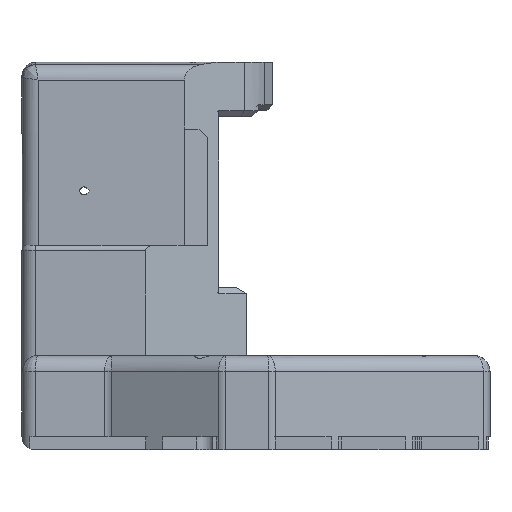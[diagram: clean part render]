
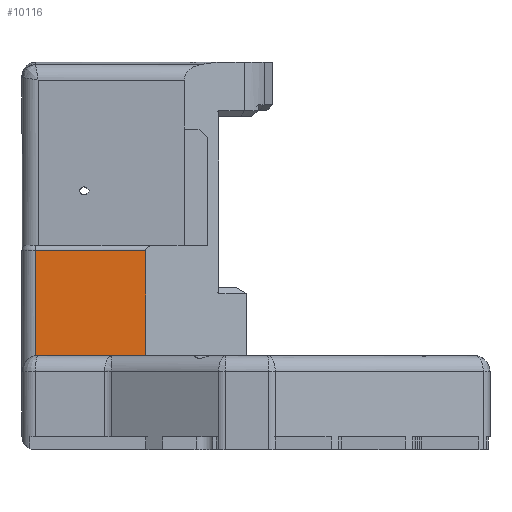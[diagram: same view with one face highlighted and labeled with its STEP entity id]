
A CAD part, left-side view. The second image highlights one B-rep face of the part: STEP entity #10116.
In plain terms, the highlighted planar face has unit normal (-1, 0, 0).
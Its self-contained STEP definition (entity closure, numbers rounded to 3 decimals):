
#782 = PLANE('',#783);
#783 = AXIS2_PLACEMENT_3D('',#784,#785,#786);
#784 = CARTESIAN_POINT('',(-108.307,-16.278,150.));
#785 = DIRECTION('',(0.819,0.574,0.));
#786 = DIRECTION('',(-0.574,0.819,0.)
  );
#3208 = VERTEX_POINT('',#3209);
#3209 = CARTESIAN_POINT('',(-127.35,10.918,115.));
#3224 = CYLINDRICAL_SURFACE('',#3225,1.);
#3225 = AXIS2_PLACEMENT_3D('',#3226,#3227,#3228);
#3226 = CARTESIAN_POINT('',(-126.35,-22.078,115.));
#3227 = DIRECTION('',(0.,1.,0.));
#3228 = DIRECTION('',(-1.,0.,0.));
#3258 = EDGE_CURVE('',#3259,#3208,#3261,.T.);
#3259 = VERTEX_POINT('',#3260);
#3260 = CARTESIAN_POINT('',(-127.35,10.918,95.5));
#3261 = SURFACE_CURVE('',#3262,(#3266,#3273),.PCURVE_S1.);
#3262 = LINE('',#3263,#3264);
#3263 = CARTESIAN_POINT('',(-127.35,10.918,94.));
#3264 = VECTOR('',#3265,1.);
#3265 = DIRECTION('',(0.,0.,1.));
#3266 = PCURVE('',#782,#3267);
#3267 = DEFINITIONAL_REPRESENTATION('',(#3268),#3272);
#3268 = LINE('',#3269,#3270);
#3269 = CARTESIAN_POINT('',(33.2,-56.));
#3270 = VECTOR('',#3271,1.);
#3271 = DIRECTION('',(0.,1.));
#3272 = ( GEOMETRIC_REPRESENTATION_CONTEXT(2) 
PARAMETRIC_REPRESENTATION_CONTEXT() REPRESENTATION_CONTEXT('2D SPACE',''
  ) );
#3273 = PCURVE('',#3274,#3279);
#3274 = PLANE('',#3275);
#3275 = AXIS2_PLACEMENT_3D('',#3276,#3277,#3278);
#3276 = CARTESIAN_POINT('',(-127.35,-22.078,150.));
#3277 = DIRECTION('',(-1.,0.,0.));
#3278 = DIRECTION('',(0.,-1.,0.));
#3279 = DEFINITIONAL_REPRESENTATION('',(#3280),#3284);
#3280 = LINE('',#3281,#3282);
#3281 = CARTESIAN_POINT('',(-32.996,-56.));
#3282 = VECTOR('',#3283,1.);
#3283 = DIRECTION('',(0.,1.));
#3284 = ( GEOMETRIC_REPRESENTATION_CONTEXT(2) 
PARAMETRIC_REPRESENTATION_CONTEXT() REPRESENTATION_CONTEXT('2D SPACE',''
  ) );
#3302 = PLANE('',#3303);
#3303 = AXIS2_PLACEMENT_3D('',#3304,#3305,#3306);
#3304 = CARTESIAN_POINT('',(-82.65,-22.078,95.5));
#3305 = DIRECTION('',(0.,0.,-1.));
#3306 = DIRECTION('',(0.,1.,0.));
#10071 = VERTEX_POINT('',#10072);
#10072 = CARTESIAN_POINT('',(-127.35,31.422,115.));
#10094 = EDGE_CURVE('',#10071,#3208,#10095,.T.);
#10095 = SURFACE_CURVE('',#10096,(#10100,#10107),.PCURVE_S1.);
#10096 = LINE('',#10097,#10098);
#10097 = CARTESIAN_POINT('',(-127.35,31.422,115.));
#10098 = VECTOR('',#10099,1.);
#10099 = DIRECTION('',(0.,-1.,0.));
#10100 = PCURVE('',#3224,#10101);
#10101 = DEFINITIONAL_REPRESENTATION('',(#10102),#10106);
#10102 = LINE('',#10103,#10104);
#10103 = CARTESIAN_POINT('',(0.,53.5));
#10104 = VECTOR('',#10105,1.);
#10105 = DIRECTION('',(0.,-1.));
#10106 = ( GEOMETRIC_REPRESENTATION_CONTEXT(2) 
PARAMETRIC_REPRESENTATION_CONTEXT() REPRESENTATION_CONTEXT('2D SPACE',''
  ) );
#10107 = PCURVE('',#3274,#10108);
#10108 = DEFINITIONAL_REPRESENTATION('',(#10109),#10113);
#10109 = LINE('',#10110,#10111);
#10110 = CARTESIAN_POINT('',(-53.5,-35.));
#10111 = VECTOR('',#10112,1.);
#10112 = DIRECTION('',(1.,0.));
#10113 = ( GEOMETRIC_REPRESENTATION_CONTEXT(2) 
PARAMETRIC_REPRESENTATION_CONTEXT() REPRESENTATION_CONTEXT('2D SPACE',''
  ) );
#10116 = ADVANCED_FACE('',(#10117),#3274,.T.);
#10117 = FACE_BOUND('',#10118,.T.);
#10118 = EDGE_LOOP('',(#10119,#10142,#10143,#10144,#10172));
#10119 = ORIENTED_EDGE('',*,*,#10120,.F.);
#10120 = EDGE_CURVE('',#3259,#10121,#10123,.T.);
#10121 = VERTEX_POINT('',#10122);
#10122 = CARTESIAN_POINT('',(-127.35,30.922,95.5));
#10123 = SURFACE_CURVE('',#10124,(#10128,#10135),.PCURVE_S1.);
#10124 = LINE('',#10125,#10126);
#10125 = CARTESIAN_POINT('',(-127.35,-22.078,95.5));
#10126 = VECTOR('',#10127,1.);
#10127 = DIRECTION('',(0.,1.,0.));
#10128 = PCURVE('',#3274,#10129);
#10129 = DEFINITIONAL_REPRESENTATION('',(#10130),#10134);
#10130 = LINE('',#10131,#10132);
#10131 = CARTESIAN_POINT('',(0.,-54.5));
#10132 = VECTOR('',#10133,1.);
#10133 = DIRECTION('',(-1.,0.));
#10134 = ( GEOMETRIC_REPRESENTATION_CONTEXT(2) 
PARAMETRIC_REPRESENTATION_CONTEXT() REPRESENTATION_CONTEXT('2D SPACE',''
  ) );
#10135 = PCURVE('',#3302,#10136);
#10136 = DEFINITIONAL_REPRESENTATION('',(#10137),#10141);
#10137 = LINE('',#10138,#10139);
#10138 = CARTESIAN_POINT('',(0.,-44.7));
#10139 = VECTOR('',#10140,1.);
#10140 = DIRECTION('',(1.,0.));
#10141 = ( GEOMETRIC_REPRESENTATION_CONTEXT(2) 
PARAMETRIC_REPRESENTATION_CONTEXT() REPRESENTATION_CONTEXT('2D SPACE',''
  ) );
#10142 = ORIENTED_EDGE('',*,*,#3258,.T.);
#10143 = ORIENTED_EDGE('',*,*,#10094,.F.);
#10144 = ORIENTED_EDGE('',*,*,#10145,.T.);
#10145 = EDGE_CURVE('',#10071,#10146,#10148,.T.);
#10146 = VERTEX_POINT('',#10147);
#10147 = CARTESIAN_POINT('',(-127.35,31.422,95.458));
#10148 = SURFACE_CURVE('',#10149,(#10153,#10160),.PCURVE_S1.);
#10149 = LINE('',#10150,#10151);
#10150 = CARTESIAN_POINT('',(-127.35,31.422,115.));
#10151 = VECTOR('',#10152,1.);
#10152 = DIRECTION('',(0.,0.,-1.));
#10153 = PCURVE('',#3274,#10154);
#10154 = DEFINITIONAL_REPRESENTATION('',(#10155),#10159);
#10155 = LINE('',#10156,#10157);
#10156 = CARTESIAN_POINT('',(-53.5,-35.));
#10157 = VECTOR('',#10158,1.);
#10158 = DIRECTION('',(0.,-1.));
#10159 = ( GEOMETRIC_REPRESENTATION_CONTEXT(2) 
PARAMETRIC_REPRESENTATION_CONTEXT() REPRESENTATION_CONTEXT('2D SPACE',''
  ) );
#10160 = PCURVE('',#10161,#10166);
#10161 = CYLINDRICAL_SURFACE('',#10162,2.5);
#10162 = AXIS2_PLACEMENT_3D('',#10163,#10164,#10165);
#10163 = CARTESIAN_POINT('',(-124.85,31.422,140.));
#10164 = DIRECTION('',(0.,0.,-1.));
#10165 = DIRECTION('',(1.,0.,0.));
#10166 = DEFINITIONAL_REPRESENTATION('',(#10167),#10171);
#10167 = LINE('',#10168,#10169);
#10168 = CARTESIAN_POINT('',(3.142,25.));
#10169 = VECTOR('',#10170,1.);
#10170 = DIRECTION('',(0.,1.));
#10171 = ( GEOMETRIC_REPRESENTATION_CONTEXT(2) 
PARAMETRIC_REPRESENTATION_CONTEXT() REPRESENTATION_CONTEXT('2D SPACE',''
  ) );
#10172 = ORIENTED_EDGE('',*,*,#10173,.F.);
#10173 = EDGE_CURVE('',#10121,#10146,#10174,.T.);
#10174 = SURFACE_CURVE('',#10175,(#10180,#10187),.PCURVE_S1.);
#10175 = CIRCLE('',#10176,3.);
#10176 = AXIS2_PLACEMENT_3D('',#10177,#10178,#10179);
#10177 = CARTESIAN_POINT('',(-127.35,30.922,92.5));
#10178 = DIRECTION('',(-1.,0.,0.));
#10179 = DIRECTION('',(0.,0.707,0.707
    ));
#10180 = PCURVE('',#3274,#10181);
#10181 = DEFINITIONAL_REPRESENTATION('',(#10182),#10186);
#10182 = CIRCLE('',#10183,3.);
#10183 = AXIS2_PLACEMENT_2D('',#10184,#10185);
#10184 = CARTESIAN_POINT('',(-53.,-57.5));
#10185 = DIRECTION('',(-0.707,0.707));
#10186 = ( GEOMETRIC_REPRESENTATION_CONTEXT(2) 
PARAMETRIC_REPRESENTATION_CONTEXT() REPRESENTATION_CONTEXT('2D SPACE',''
  ) );
#10187 = PCURVE('',#10188,#10193);
#10188 = CYLINDRICAL_SURFACE('',#10189,3.);
#10189 = AXIS2_PLACEMENT_3D('',#10190,#10191,#10192);
#10190 = CARTESIAN_POINT('',(-122.35,30.922,92.5));
#10191 = DIRECTION('',(-1.,0.,0.));
#10192 = DIRECTION('',(0.,0.707,0.707)
  );
#10193 = DEFINITIONAL_REPRESENTATION('',(#10194),#10198);
#10194 = LINE('',#10195,#10196);
#10195 = CARTESIAN_POINT('',(0.,5.));
#10196 = VECTOR('',#10197,1.);
#10197 = DIRECTION('',(1.,0.));
#10198 = ( GEOMETRIC_REPRESENTATION_CONTEXT(2) 
PARAMETRIC_REPRESENTATION_CONTEXT() REPRESENTATION_CONTEXT('2D SPACE',''
  ) );
